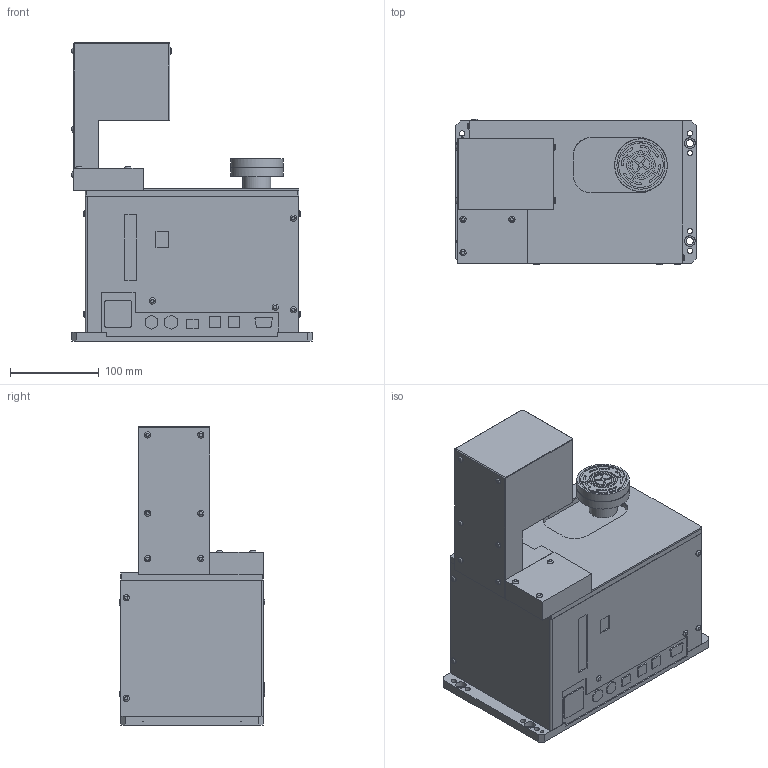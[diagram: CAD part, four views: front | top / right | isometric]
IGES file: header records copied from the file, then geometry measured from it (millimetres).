
Global section: file name: SAL38C3HV-11473; native system: Autodesk Inventor 2016; preprocessor: unknown; author: m-takamori; date: 20161125.140345; units: millimetre
Bounding box: 270 x 163.78 x 335 mm (x, y, z)
Volume: 7734749.9 mm3; surface area: 317552.6 mm2
Topology: 2 solids, 2 shells, 340 faces, 886 edges, 602 vertices
Faces by surface type: bspline 340
